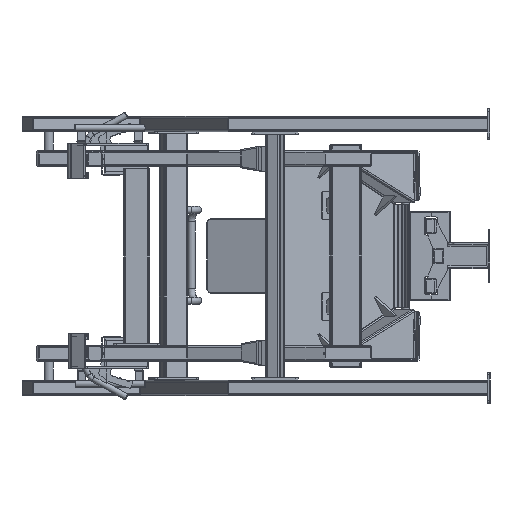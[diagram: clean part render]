
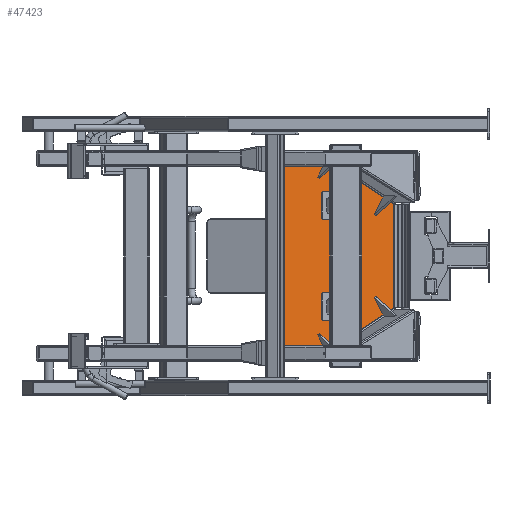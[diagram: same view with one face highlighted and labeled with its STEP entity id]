
A CAD part, left-side view. The second image highlights one B-rep face of the part: STEP entity #47423.
In plain terms, the highlighted planar face has unit normal (-0.868, -0.497, 0).
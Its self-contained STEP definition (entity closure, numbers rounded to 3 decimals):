
#1827=PLANE('',#50577);
#3405=FACE_OUTER_BOUND('',#6228,.T.);
#6228=EDGE_LOOP('',(#32993,#32994,#32995,#32996,#32997,#32998,#32999,#33000,
#33001,#33002,#33003,#33004));
#9547=LINE('',#69689,#14148);
#9548=LINE('',#69691,#14149);
#9549=LINE('',#69693,#14150);
#9550=LINE('',#69695,#14151);
#9551=LINE('',#69697,#14152);
#9552=LINE('',#69699,#14153);
#9553=LINE('',#69701,#14154);
#9554=LINE('',#69703,#14155);
#9555=LINE('',#69705,#14156);
#9556=LINE('',#69707,#14157);
#9557=LINE('',#69709,#14158);
#9558=LINE('',#69710,#14159);
#14148=VECTOR('',#55935,1000.);
#14149=VECTOR('',#55936,1000.);
#14150=VECTOR('',#55937,1000.);
#14151=VECTOR('',#55938,1000.);
#14152=VECTOR('',#55939,1000.);
#14153=VECTOR('',#55940,1000.);
#14154=VECTOR('',#55941,1000.);
#14155=VECTOR('',#55942,1000.);
#14156=VECTOR('',#55943,1000.);
#14157=VECTOR('',#55944,1000.);
#14158=VECTOR('',#55945,1000.);
#14159=VECTOR('',#55946,1000.);
#20508=VERTEX_POINT('',#69687);
#20509=VERTEX_POINT('',#69688);
#20510=VERTEX_POINT('',#69690);
#20511=VERTEX_POINT('',#69692);
#20512=VERTEX_POINT('',#69694);
#20513=VERTEX_POINT('',#69696);
#20514=VERTEX_POINT('',#69698);
#20515=VERTEX_POINT('',#69700);
#20516=VERTEX_POINT('',#69702);
#20517=VERTEX_POINT('',#69704);
#20518=VERTEX_POINT('',#69706);
#20519=VERTEX_POINT('',#69708);
#25290=EDGE_CURVE('',#20508,#20509,#9547,.T.);
#25291=EDGE_CURVE('',#20508,#20510,#9548,.T.);
#25292=EDGE_CURVE('',#20510,#20511,#9549,.T.);
#25293=EDGE_CURVE('',#20511,#20512,#9550,.T.);
#25294=EDGE_CURVE('',#20512,#20513,#9551,.T.);
#25295=EDGE_CURVE('',#20513,#20514,#9552,.T.);
#25296=EDGE_CURVE('',#20514,#20515,#9553,.T.);
#25297=EDGE_CURVE('',#20515,#20516,#9554,.T.);
#25298=EDGE_CURVE('',#20516,#20517,#9555,.T.);
#25299=EDGE_CURVE('',#20517,#20518,#9556,.T.);
#25300=EDGE_CURVE('',#20519,#20518,#9557,.T.);
#25301=EDGE_CURVE('',#20509,#20519,#9558,.T.);
#32993=ORIENTED_EDGE('',*,*,#25290,.F.);
#32994=ORIENTED_EDGE('',*,*,#25291,.T.);
#32995=ORIENTED_EDGE('',*,*,#25292,.T.);
#32996=ORIENTED_EDGE('',*,*,#25293,.T.);
#32997=ORIENTED_EDGE('',*,*,#25294,.T.);
#32998=ORIENTED_EDGE('',*,*,#25295,.T.);
#32999=ORIENTED_EDGE('',*,*,#25296,.T.);
#33000=ORIENTED_EDGE('',*,*,#25297,.T.);
#33001=ORIENTED_EDGE('',*,*,#25298,.T.);
#33002=ORIENTED_EDGE('',*,*,#25299,.T.);
#33003=ORIENTED_EDGE('',*,*,#25300,.F.);
#33004=ORIENTED_EDGE('',*,*,#25301,.F.);
#47423=ADVANCED_FACE('',(#3405),#1827,.T.);
#50577=AXIS2_PLACEMENT_3D('',#69686,#55933,#55934);
#55933=DIRECTION('center_axis',(-0.868,-0.497,0.));
#55934=DIRECTION('ref_axis',(0.,0.,
1.));
#55935=DIRECTION('',(0.43,-0.752,-0.5));
#55936=DIRECTION('',(0.,0.,-1.));
#55937=DIRECTION('',(-0.497,0.868,0.));
#55938=DIRECTION('',(0.,0.,1.));
#55939=DIRECTION('',(-0.497,0.868,0.));
#55940=DIRECTION('',(0.,0.,-1.));
#55941=DIRECTION('',(0.497,-0.868,0.));
#55942=DIRECTION('',(0.,0.,1.));
#55943=DIRECTION('',(0.497,-0.868,0.));
#55944=DIRECTION('',(0.,0.,-1.));
#55945=DIRECTION('',(-0.43,0.752,-0.5));
#55946=DIRECTION('',(0.,0.,-1.));
#69686=CARTESIAN_POINT('Origin',(1667.365,421.087,2887.935));
#69687=CARTESIAN_POINT('',(1525.947,668.116,3116.963));
#69688=CARTESIAN_POINT('',(1696.809,369.653,2918.407));
#69689=CARTESIAN_POINT('',(1696.809,369.653,2918.407));
#69690=CARTESIAN_POINT('',(1525.947,668.116,3105.907));
#69691=CARTESIAN_POINT('',(1525.947,668.116,2887.935));
#69692=CARTESIAN_POINT('',(1524.705,670.286,3105.907));
#69693=CARTESIAN_POINT('',(1667.365,421.087,3105.907));
#69694=CARTESIAN_POINT('',(1524.705,670.286,3108.407));
#69695=CARTESIAN_POINT('',(1524.705,670.286,2887.935));
#69696=CARTESIAN_POINT('',(1453.366,794.901,3108.407));
#69697=CARTESIAN_POINT('',(1524.705,670.286,3108.407));
#69698=CARTESIAN_POINT('',(1453.366,794.901,2328.407));
#69699=CARTESIAN_POINT('',(1453.366,794.901,3112.7));
#69700=CARTESIAN_POINT('',(1524.705,670.286,2328.407));
#69701=CARTESIAN_POINT('',(1451.233,798.626,2328.407));
#69702=CARTESIAN_POINT('',(1524.705,670.286,2330.907));
#69703=CARTESIAN_POINT('',(1524.705,670.286,2887.935));
#69704=CARTESIAN_POINT('',(1525.947,668.116,2330.907));
#69705=CARTESIAN_POINT('',(1667.365,421.087,2330.907));
#69706=CARTESIAN_POINT('',(1525.947,668.116,2319.85));
#69707=CARTESIAN_POINT('',(1525.947,668.116,2887.935));
#69708=CARTESIAN_POINT('',(1696.809,369.653,2518.407));
#69709=CARTESIAN_POINT('',(1524.705,670.286,2318.407));
#69710=CARTESIAN_POINT('',(1696.809,369.653,2518.407));
